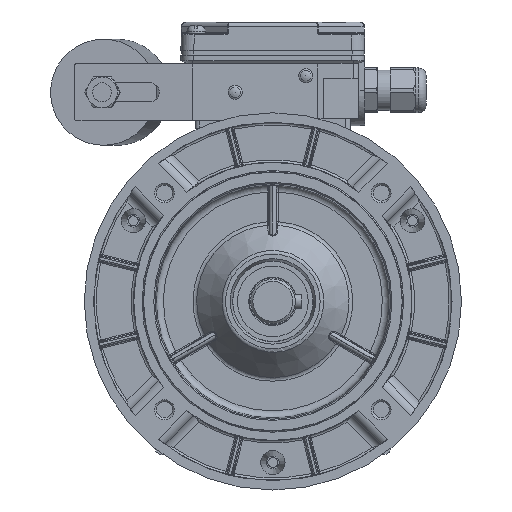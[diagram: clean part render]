
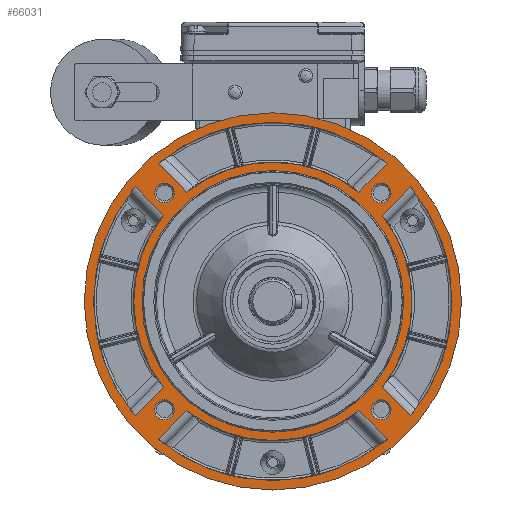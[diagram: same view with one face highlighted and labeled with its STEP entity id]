
A CAD part, left-side view. The second image highlights one B-rep face of the part: STEP entity #66031.
In plain terms, the highlighted planar face has unit normal (-1, 0, 0).
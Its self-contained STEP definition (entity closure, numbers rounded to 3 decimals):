
#5422=LINE('',#98231,#8714);
#5423=LINE('',#98240,#8715);
#5424=LINE('',#98259,#8716);
#5425=LINE('',#98268,#8717);
#5426=LINE('',#98275,#8718);
#5427=LINE('',#98294,#8719);
#5429=LINE('',#98682,#8721);
#5430=LINE('',#98693,#8722);
#8714=VECTOR('',#79540,1000.);
#8715=VECTOR('',#79547,1000.);
#8716=VECTOR('',#79554,1000.);
#8717=VECTOR('',#79561,1000.);
#8718=VECTOR('',#79564,1000.);
#8719=VECTOR('',#79571,1000.);
#8721=VECTOR('',#79641,1000.);
#8722=VECTOR('',#79648,1000.);
#18021=ORIENTED_EDGE('',*,*,#28453,.T.);
#18022=ORIENTED_EDGE('',*,*,#28452,.T.);
#18023=ORIENTED_EDGE('',*,*,#28451,.T.);
#18024=ORIENTED_EDGE('',*,*,#28450,.T.);
#18025=ORIENTED_EDGE('',*,*,#28449,.T.);
#18026=ORIENTED_EDGE('',*,*,#28498,.T.);
#18027=ORIENTED_EDGE('',*,*,#28496,.T.);
#18028=ORIENTED_EDGE('',*,*,#28499,.T.);
#18029=ORIENTED_EDGE('',*,*,#28500,.F.);
#18030=ORIENTED_EDGE('',*,*,#28501,.F.);
#18031=ORIENTED_EDGE('',*,*,#28448,.T.);
#18032=ORIENTED_EDGE('',*,*,#28447,.F.);
#18033=ORIENTED_EDGE('',*,*,#28444,.F.);
#18034=ORIENTED_EDGE('',*,*,#28442,.T.);
#18035=ORIENTED_EDGE('',*,*,#28440,.T.);
#18036=ORIENTED_EDGE('',*,*,#28438,.T.);
#18037=ORIENTED_EDGE('',*,*,#28437,.F.);
#18038=ORIENTED_EDGE('',*,*,#28434,.F.);
#18039=ORIENTED_EDGE('',*,*,#28432,.T.);
#18040=ORIENTED_EDGE('',*,*,#28430,.T.);
#18041=ORIENTED_EDGE('',*,*,#28429,.F.);
#18042=ORIENTED_EDGE('',*,*,#28426,.F.);
#28426=EDGE_CURVE('',#34293,#34294,#37701,.T.);
#28429=EDGE_CURVE('',#34294,#34295,#5422,.T.);
#28430=EDGE_CURVE('',#34296,#34295,#37702,.T.);
#28432=EDGE_CURVE('',#34293,#34296,#5423,.T.);
#28434=EDGE_CURVE('',#34297,#34298,#37703,.T.);
#28437=EDGE_CURVE('',#34298,#34299,#5424,.T.);
#28438=EDGE_CURVE('',#34300,#34299,#37704,.T.);
#28440=EDGE_CURVE('',#34297,#34300,#5425,.T.);
#28442=EDGE_CURVE('',#34302,#34301,#5426,.T.);
#28444=EDGE_CURVE('',#34302,#34303,#37705,.T.);
#28447=EDGE_CURVE('',#34303,#34304,#5427,.T.);
#28448=EDGE_CURVE('',#34301,#34304,#37706,.T.);
#28449=EDGE_CURVE('',#34305,#34305,#37707,.F.);
#28450=EDGE_CURVE('',#34306,#34306,#37708,.F.);
#28451=EDGE_CURVE('',#34307,#34307,#37709,.F.);
#28452=EDGE_CURVE('',#34308,#34308,#37710,.F.);
#28453=EDGE_CURVE('',#34309,#34309,#37711,.F.);
#28496=EDGE_CURVE('',#34331,#34330,#5429,.T.);
#28498=EDGE_CURVE('',#34332,#34332,#37726,.T.);
#28499=EDGE_CURVE('',#34330,#34333,#37727,.T.);
#28500=EDGE_CURVE('',#34334,#34333,#5430,.T.);
#28501=EDGE_CURVE('',#34331,#34334,#37728,.T.);
#34293=VERTEX_POINT('',#98218);
#34294=VERTEX_POINT('',#98220);
#34295=VERTEX_POINT('',#98230);
#34296=VERTEX_POINT('',#98234);
#34297=VERTEX_POINT('',#98246);
#34298=VERTEX_POINT('',#98248);
#34299=VERTEX_POINT('',#98258);
#34300=VERTEX_POINT('',#98262);
#34301=VERTEX_POINT('',#98274);
#34302=VERTEX_POINT('',#98276);
#34303=VERTEX_POINT('',#98283);
#34304=VERTEX_POINT('',#98293);
#34305=VERTEX_POINT('',#98299);
#34306=VERTEX_POINT('',#98302);
#34307=VERTEX_POINT('',#98305);
#34308=VERTEX_POINT('',#98308);
#34309=VERTEX_POINT('',#98311);
#34330=VERTEX_POINT('',#98681);
#34331=VERTEX_POINT('',#98683);
#34332=VERTEX_POINT('',#98690);
#34333=VERTEX_POINT('',#98692);
#34334=VERTEX_POINT('',#98694);
#37701=CIRCLE('',#69946,76.);
#37702=CIRCLE('',#69949,59.);
#37703=CIRCLE('',#69952,76.);
#37704=CIRCLE('',#69955,59.);
#37705=CIRCLE('',#69959,76.);
#37706=CIRCLE('',#69962,59.);
#37707=CIRCLE('',#69964,4.2);
#37708=CIRCLE('',#69966,4.2);
#37709=CIRCLE('',#69968,4.2);
#37710=CIRCLE('',#69970,4.2);
#37711=CIRCLE('',#69972,55.5);
#37726=CIRCLE('',#69996,80.);
#37727=CIRCLE('',#69997,59.);
#37728=CIRCLE('',#69998,76.);
#40405=EDGE_LOOP('',(#18021));
#40406=EDGE_LOOP('',(#18022));
#40407=EDGE_LOOP('',(#18023));
#40408=EDGE_LOOP('',(#18024));
#40409=EDGE_LOOP('',(#18025));
#40410=EDGE_LOOP('',(#18026));
#40411=EDGE_LOOP('',(#18027,#18028,#18029,#18030));
#40412=EDGE_LOOP('',(#18031,#18032,#18033,#18034));
#40413=EDGE_LOOP('',(#18035,#18036,#18037,#18038));
#40414=EDGE_LOOP('',(#18039,#18040,#18041,#18042));
#43716=FACE_BOUND('',#40405,.T.);
#43717=FACE_BOUND('',#40406,.T.);
#43718=FACE_BOUND('',#40407,.T.);
#43719=FACE_BOUND('',#40408,.T.);
#43720=FACE_BOUND('',#40409,.T.);
#43721=FACE_BOUND('',#40410,.T.);
#43722=FACE_BOUND('',#40411,.T.);
#43723=FACE_BOUND('',#40412,.T.);
#43724=FACE_BOUND('',#40413,.T.);
#43725=FACE_BOUND('',#40414,.T.);
#45906=PLANE('',#69995);
#66031=ADVANCED_FACE('',(#43716,#43717,#43718,#43719,#43720,#43721,#43722,
#43723,#43724,#43725),#45906,.T.);
#69946=AXIS2_PLACEMENT_3D('',#98219,#79536,#79537);
#69949=AXIS2_PLACEMENT_3D('',#98233,#79543,#79544);
#69952=AXIS2_PLACEMENT_3D('',#98247,#79550,#79551);
#69955=AXIS2_PLACEMENT_3D('',#98261,#79557,#79558);
#69959=AXIS2_PLACEMENT_3D('',#98282,#79567,#79568);
#69962=AXIS2_PLACEMENT_3D('',#98296,#79574,#79575);
#69964=AXIS2_PLACEMENT_3D('',#98298,#79578,#79579);
#69966=AXIS2_PLACEMENT_3D('',#98301,#79582,#79583);
#69968=AXIS2_PLACEMENT_3D('',#98304,#79586,#79587);
#69970=AXIS2_PLACEMENT_3D('',#98307,#79590,#79591);
#69972=AXIS2_PLACEMENT_3D('',#98310,#79594,#79595);
#69995=AXIS2_PLACEMENT_3D('',#98688,#79642,#79643);
#69996=AXIS2_PLACEMENT_3D('',#98689,#79644,#79645);
#69997=AXIS2_PLACEMENT_3D('',#98691,#79646,#79647);
#69998=AXIS2_PLACEMENT_3D('',#98695,#79649,#79650);
#79536=DIRECTION('',(-1.,0.,0.));
#79537=DIRECTION('',(0.,0.,1.));
#79540=DIRECTION('',(0.,-0.707,0.707));
#79543=DIRECTION('',(-1.,0.,0.));
#79544=DIRECTION('',(0.,0.,1.));
#79547=DIRECTION('',(0.,-0.707,-0.707));
#79550=DIRECTION('',(-1.,0.,0.));
#79551=DIRECTION('',(0.,0.,1.));
#79554=DIRECTION('',(0.,-0.707,-0.707));
#79557=DIRECTION('',(-1.,0.,0.));
#79558=DIRECTION('',(0.,0.,1.));
#79561=DIRECTION('',(0.,0.707,-0.707));
#79564=DIRECTION('',(0.,-0.707,0.707));
#79567=DIRECTION('',(-1.,0.,0.));
#79568=DIRECTION('',(0.,0.,1.));
#79571=DIRECTION('',(0.,0.707,0.707));
#79574=DIRECTION('',(-1.,0.,0.));
#79575=DIRECTION('',(0.,0.,1.));
#79578=DIRECTION('',(-1.,0.,0.));
#79579=DIRECTION('',(0.,-1.,0.));
#79582=DIRECTION('',(-1.,0.,0.));
#79583=DIRECTION('',(0.,-1.,0.));
#79586=DIRECTION('',(-1.,0.,0.));
#79587=DIRECTION('',(0.,-1.,0.));
#79590=DIRECTION('',(-1.,0.,0.));
#79591=DIRECTION('',(0.,-1.,0.));
#79594=DIRECTION('',(-1.,0.,0.));
#79595=DIRECTION('',(0.,-1.,0.));
#79641=DIRECTION('',(0.,0.707,0.707));
#79642=DIRECTION('',(-1.,0.,0.));
#79643=DIRECTION('',(0.,-1.,0.));
#79644=DIRECTION('',(-1.,0.,0.));
#79645=DIRECTION('',(0.,1.,0.));
#79646=DIRECTION('',(-1.,0.,0.));
#79647=DIRECTION('',(0.,0.,1.));
#79648=DIRECTION('',(0.,0.707,-0.707));
#79649=DIRECTION('',(-1.,0.,0.));
#79650=DIRECTION('',(0.,0.,1.));
#98218=CARTESIAN_POINT('',(-44.3,58.461,48.562));
#98219=CARTESIAN_POINT('',(-44.3,0.,0.));
#98220=CARTESIAN_POINT('',(-44.3,58.461,-48.562));
#98230=CARTESIAN_POINT('',(-44.3,46.374,-36.475));
#98231=CARTESIAN_POINT('',(-44.3,70.057,-60.157));
#98233=CARTESIAN_POINT('',(-44.3,0.,0.));
#98234=CARTESIAN_POINT('',(-44.3,46.374,36.475));
#98240=CARTESIAN_POINT('',(-44.3,70.057,60.157));
#98246=CARTESIAN_POINT('',(-44.3,-48.562,58.461));
#98247=CARTESIAN_POINT('',(-44.3,0.,0.));
#98248=CARTESIAN_POINT('',(-44.3,48.562,58.461));
#98258=CARTESIAN_POINT('',(-44.3,36.475,46.374));
#98259=CARTESIAN_POINT('',(-44.3,60.157,70.057));
#98261=CARTESIAN_POINT('',(-44.3,0.,0.));
#98262=CARTESIAN_POINT('',(-44.3,-36.475,46.374));
#98268=CARTESIAN_POINT('',(-44.3,-60.157,70.057));
#98274=CARTESIAN_POINT('',(-44.3,36.475,-46.374));
#98275=CARTESIAN_POINT('',(-44.3,60.157,-70.057));
#98276=CARTESIAN_POINT('',(-44.3,48.562,-58.461));
#98282=CARTESIAN_POINT('',(-44.3,0.,0.));
#98283=CARTESIAN_POINT('',(-44.3,-48.562,-58.461));
#98293=CARTESIAN_POINT('',(-44.3,-36.475,-46.374));
#98294=CARTESIAN_POINT('',(-44.3,-60.157,-70.057));
#98296=CARTESIAN_POINT('',(-44.3,0.,0.));
#98298=CARTESIAN_POINT('',(-44.3,45.962,-45.962));
#98299=CARTESIAN_POINT('',(-44.3,41.762,-45.962));
#98301=CARTESIAN_POINT('',(-44.3,45.962,45.962));
#98302=CARTESIAN_POINT('',(-44.3,41.762,45.962));
#98304=CARTESIAN_POINT('',(-44.3,-45.962,45.962));
#98305=CARTESIAN_POINT('',(-44.3,-50.162,45.962));
#98307=CARTESIAN_POINT('',(-44.3,-45.962,-45.962));
#98308=CARTESIAN_POINT('',(-44.3,-50.162,-45.962));
#98310=CARTESIAN_POINT('',(-44.3,0.,0.));
#98311=CARTESIAN_POINT('',(-44.3,-55.5,0.));
#98681=CARTESIAN_POINT('',(-44.3,-46.374,-36.475));
#98682=CARTESIAN_POINT('',(-44.3,-70.057,-60.157));
#98683=CARTESIAN_POINT('',(-44.3,-58.461,-48.562));
#98688=CARTESIAN_POINT('',(-44.3,0.,0.));
#98689=CARTESIAN_POINT('',(-44.3,0.,0.));
#98690=CARTESIAN_POINT('',(-44.3,80.,0.));
#98691=CARTESIAN_POINT('',(-44.3,0.,0.));
#98692=CARTESIAN_POINT('',(-44.3,-46.374,36.475));
#98693=CARTESIAN_POINT('',(-44.3,-70.057,60.157));
#98694=CARTESIAN_POINT('',(-44.3,-58.461,48.562));
#98695=CARTESIAN_POINT('',(-44.3,0.,0.));
